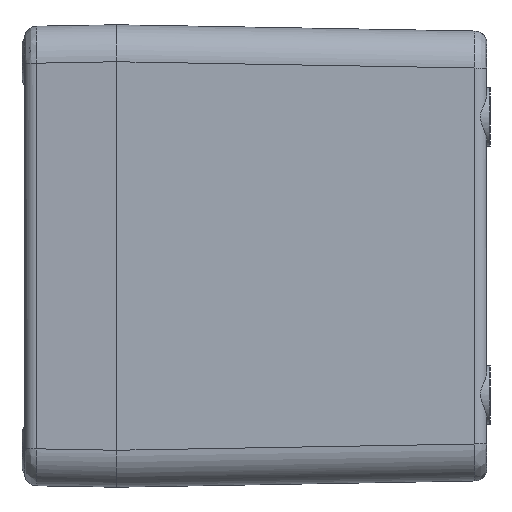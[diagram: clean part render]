
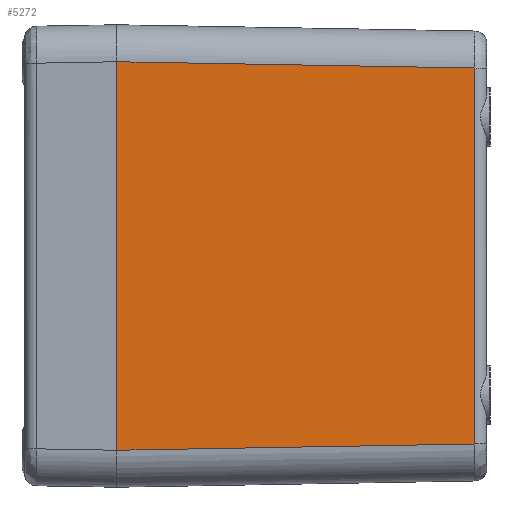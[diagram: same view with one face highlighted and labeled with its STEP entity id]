
A CAD part, left-side view. The second image highlights one B-rep face of the part: STEP entity #5272.
In plain terms, the highlighted planar face has unit normal (-1, -0.018, 0).
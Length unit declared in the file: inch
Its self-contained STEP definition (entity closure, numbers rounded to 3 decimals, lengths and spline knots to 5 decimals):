
#868 = VECTOR ( 'NONE', #6381, 39.37008 ) ;
#873 = LINE ( 'NONE', #6383, #868 ) ;
#880 = LINE ( 'NONE', #7257, #882 ) ;
#882 = VECTOR ( 'NONE', #7252, 39.37008 ) ;
#884 = VECTOR ( 'NONE', #7362, 39.37008 ) ;
#888 = LINE ( 'NONE', #7352, #895 ) ;
#893 = LINE ( 'NONE', #7363, #884 ) ;
#895 = VECTOR ( 'NONE', #7351, 39.37008 ) ;
#1671 = ORIENTED_EDGE ( 'NONE', *, *, #13345, .T. ) ;
#1673 = ORIENTED_EDGE ( 'NONE', *, *, #13360, .F. ) ;
#1675 = ORIENTED_EDGE ( 'NONE', *, *, #13364, .F. ) ;
#1676 = ORIENTED_EDGE ( 'NONE', *, *, #13354, .T. ) ;
#2820 = EDGE_LOOP ( 'NONE', ( #1676, #1675, #1673, #1671 ) ) ;
#3636 = FACE_OUTER_BOUND ( 'NONE', #2820, .T. ) ;
#3858 = AXIS2_PLACEMENT_3D ( 'NONE', #4310, #4401, #4403 ) ;
#4306 = PLANE ( 'NONE',  #3858 ) ;
#4310 = CARTESIAN_POINT ( 'NONE',  ( -3.14961, 0., -1.60758 ) ) ;
#4401 = DIRECTION ( 'NONE',  ( -1., -0.017, 0. ) ) ;
#4403 = DIRECTION ( 'NONE',  ( 0.017, -1., 0. ) ) ;
#5272 = ADVANCED_FACE ( 'NONE', ( #3636 ), #4306, .T. ) ;
#6042 = CARTESIAN_POINT ( 'NONE',  ( -3.10972, -2.28484, 1.20031 ) ) ;
#6082 = CARTESIAN_POINT ( 'NONE',  ( -3.14961, 0., 1.24019 ) ) ;
#6129 = CARTESIAN_POINT ( 'NONE',  ( -3.10972, -2.28484, -1.20031 ) ) ;
#6182 = CARTESIAN_POINT ( 'NONE',  ( -3.14961, 0., -1.24019 ) ) ;
#6381 = DIRECTION ( 'NONE',  ( 0., 0., -1. ) ) ;
#6383 = CARTESIAN_POINT ( 'NONE',  ( -3.14961, 0., -1.60758 ) ) ;
#7252 = DIRECTION ( 'NONE',  ( 0.017, -1., 0.017 ) ) ;
#7257 = CARTESIAN_POINT ( 'NONE',  ( -3.14961, 0., -1.24019 ) ) ;
#7351 = DIRECTION ( 'NONE',  ( 0., 0., -1. ) ) ;
#7352 = CARTESIAN_POINT ( 'NONE',  ( -3.10972, -2.28484, 1.25691 ) ) ;
#7362 = DIRECTION ( 'NONE',  ( 0.017, -1., -0.017 ) ) ;
#7363 = CARTESIAN_POINT ( 'NONE',  ( -3.14982, 0.01197, 1.2404 ) ) ;
#11774 = VERTEX_POINT ( 'NONE', #6182 ) ;
#11803 = VERTEX_POINT ( 'NONE', #6129 ) ;
#11901 = VERTEX_POINT ( 'NONE', #6082 ) ;
#11938 = VERTEX_POINT ( 'NONE', #6042 ) ;
#13345 = EDGE_CURVE ( 'NONE', #11901, #11774, #873, .T. ) ;
#13354 = EDGE_CURVE ( 'NONE', #11774, #11803, #880, .T. ) ;
#13360 = EDGE_CURVE ( 'NONE', #11901, #11938, #893, .T. ) ;
#13364 = EDGE_CURVE ( 'NONE', #11938, #11803, #888, .T. ) ;
